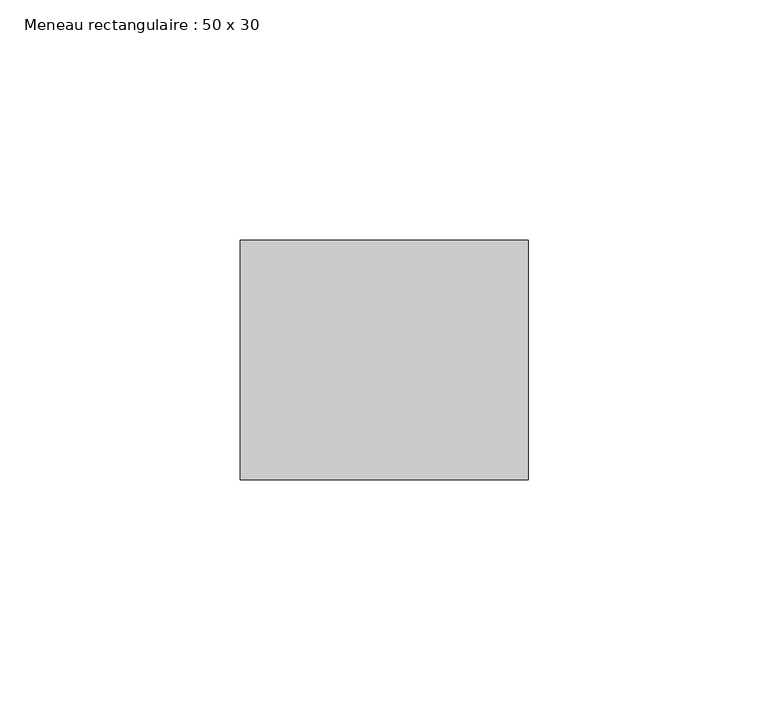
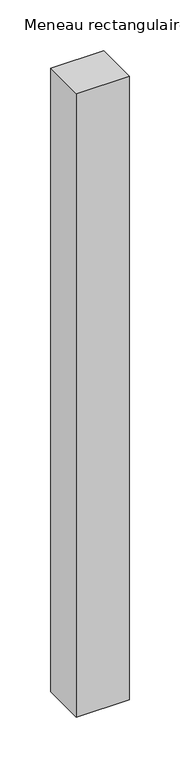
"""IFC4 building model written with IfcOpenShell, lengths in millimetres: member geometry, Meneau rectangulaire : 50 x 30."""

from ifc_helpers import new_model, si_unit, frame, origin, place, context, project, spatial, polyline, outline, extrude, source, transform, mapped, element, save


def meneau_rectangulaire_50_x_30_5b178460(model_context):
    return source(origin(), model_context, "Body", "SweptSolid", [
        extrude(outline(polyline([(0.0, 0.0), (0.0, -50.0), (-60.0, -50.0), (-60.0, 0.0), (0.0, 0.0)])), frame((0.0, 0.0, -749.0), z_axis=(0.0, 0.0, 1.0), x_axis=(1.0, 0.0, 0.0)), (0.0, 0.0, 1.0), 749.0),
    ])


if __name__ == "__main__":
    model = new_model("IFC4")
    model_context = context("Model", 3, world=origin())
    ifc_project = project(units=[si_unit("LENGTHUNIT", "METRE", prefix="MILLI")], contexts=[model_context])
    site = spatial("IfcSite", under=ifc_project)
    building = spatial("IfcBuilding", under=site)
    placement = place(None, origin())
    meneau_rectangulaire_50_x_30_shape = meneau_rectangulaire_50_x_30_5b178460(model_context)
    element("IfcMember", 1, ObjectType="Meneau rectangulaire : 50 x 30", at=placement, inside=building, context=model_context, shape_type="MappedRepresentation", body=[
        mapped(meneau_rectangulaire_50_x_30_shape, transform((0.0, 0.0, 0.0), x_axis=(1.0, 0.0, 0.0), y_axis=(0.0, 1.0, 0.0), z_axis=(0.0, 0.0, 1.0))),
    ])
    save(model, "model.ifc")
